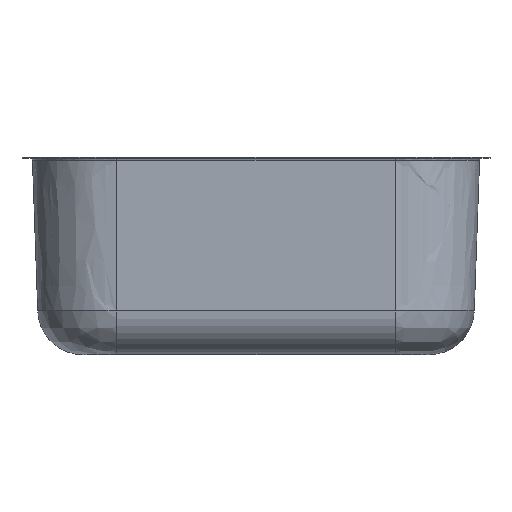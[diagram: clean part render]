
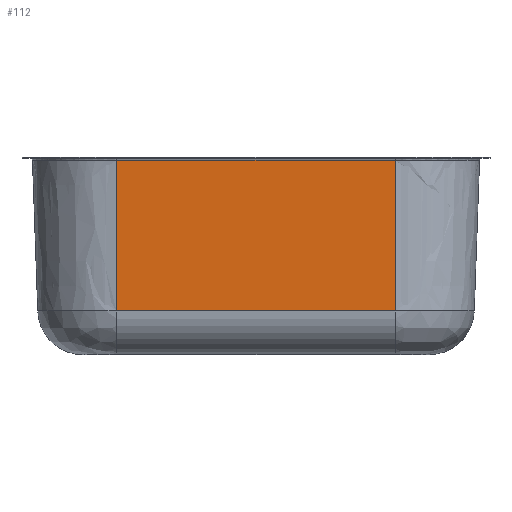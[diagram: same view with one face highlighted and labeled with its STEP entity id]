
A CAD part, left-side view. The second image highlights one B-rep face of the part: STEP entity #112.
In plain terms, the highlighted planar face has unit normal (-0.999, 0, -0.035).
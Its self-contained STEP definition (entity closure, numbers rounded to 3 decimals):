
#112=ADVANCED_FACE('',(#255),#256,.T.);
#255=FACE_OUTER_BOUND('',#2397,.T.);
#256=PLANE('',#2398);
#2397=EDGE_LOOP('',(#5084,#5085,#5086,#5087));
#2398=AXIS2_PLACEMENT_3D('',#5088,#5089,#5090);
#5084=ORIENTED_EDGE('',*,*,#5596,.T.);
#5085=ORIENTED_EDGE('',*,*,#5595,.T.);
#5086=ORIENTED_EDGE('',*,*,#5597,.T.);
#5087=ORIENTED_EDGE('',*,*,#5598,.F.);
#5088=CARTESIAN_POINT('',(-167.61,0.,-88.221));
#5089=DIRECTION('',(-0.999,0.0,-0.035));
#5090=DIRECTION('',(-0.035,0.0,0.999));
#5595=EDGE_CURVE('',#5943,#5938,#5947,.T.);
#5596=EDGE_CURVE('',#5948,#5943,#5949,.T.);
#5597=EDGE_CURVE('',#5938,#5950,#5951,.F.);
#5598=EDGE_CURVE('',#5948,#5950,#5952,.T.);
#5938=VERTEX_POINT('',#7088);
#5943=VERTEX_POINT('',#7117);
#5947=B_SPLINE_CURVE_WITH_KNOTS('',1,(#7166,#7167),.UNSPECIFIED.,.F.,.F.,(2,2),(38.628,173.997),.UNSPECIFIED.);
#5948=VERTEX_POINT('',#7168);
#5949=LINE('',#7169,#7170);
#5950=VERTEX_POINT('',#7171);
#5951=LINE('',#7172,#7173);
#5952=LINE('',#7174,#7175);
#7088=CARTESIAN_POINT('',(-170.602,-125.09,-2.53));
#7117=CARTESIAN_POINT('',(-165.878,-125.09,-137.817));
#7166=CARTESIAN_POINT('',(-165.878,-125.09,-137.817));
#7167=CARTESIAN_POINT('',(-170.602,-125.09,-2.53));
#7168=CARTESIAN_POINT('',(-165.878,125.09,-137.817));
#7169=CARTESIAN_POINT('',(-165.878,0.,-137.817));
#7170=VECTOR('',#7970,1.0);
#7171=CARTESIAN_POINT('',(-170.602,125.09,-2.53));
#7172=CARTESIAN_POINT('',(-170.602,0.,-2.53));
#7173=VECTOR('',#7971,1.0);
#7174=CARTESIAN_POINT('',(-168.24,125.09,-70.174));
#7175=VECTOR('',#7972,1.0);
#7970=DIRECTION('',(0.0,-1.0,0.0));
#7971=DIRECTION('',(0.0,-1.0,0.0));
#7972=DIRECTION('',(-0.035,0.0,0.999));
